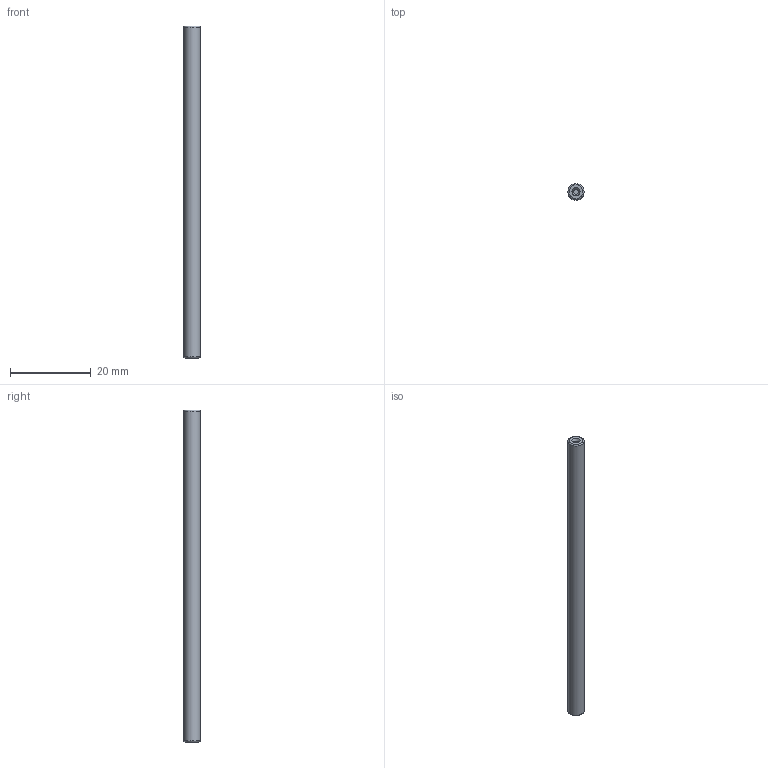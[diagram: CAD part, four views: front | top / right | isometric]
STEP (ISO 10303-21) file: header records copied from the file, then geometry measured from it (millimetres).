
FILE_DESCRIPTION(/* description */ (''),/* implementation_level */ '2;1');
FILE_NAME(/* name */ 'LM0830-040-Rod.stp',/* time_stamp */ '2017-09-06T14:07:00+02:00',/* author */ ('DR. FRITZ FAULHABER GmbH & Co. KG'),/* organization */ ('DR. FRITZ FAULHABER GmbH & Co. KG'),/* preprocessor_version */ 'ST-DEVELOPER v16',/* originating_system */ 'SIEMENS PLM Software NX 10.0',/* authorisation */ '');
FILE_SCHEMA (('AUTOMOTIVE_DESIGN { 1 0 10303 214 3 1 1 1 }'));
Length unit declared in the file: millimetre
Products named in the file (1): Alle_Motoren
Bounding box: 4 x 4 x 82 mm (x, y, z)
Volume: 1022.7 mm3; surface area: 1070.6 mm2
Topology: 1 solids, 1 shells, 11 faces, 20 edges, 13 vertices
Faces by surface type: plane 4, cylinder 3, cone 2, torus 2
Full cylindrical faces by diameter (mm): 1.25 x2, 4 x1
Entity records: 238 total; most frequent: DIRECTION 44, CARTESIAN_POINT 32, AXIS2_PLACEMENT_3D 22, EDGE_LOOP 20, ORIENTED_EDGE 20, FACE_BOUND 18, ADVANCED_FACE 11, VERTEX_POINT 10
